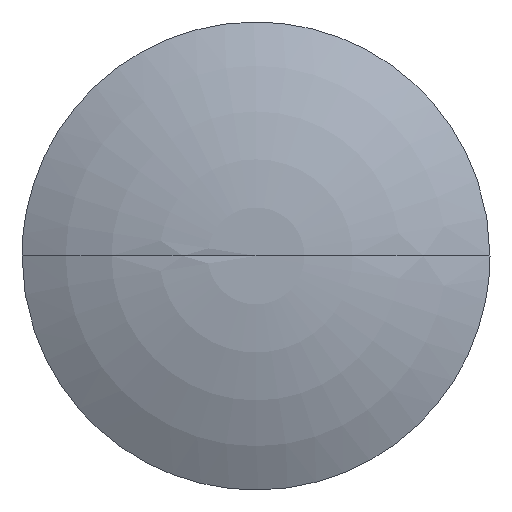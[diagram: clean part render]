
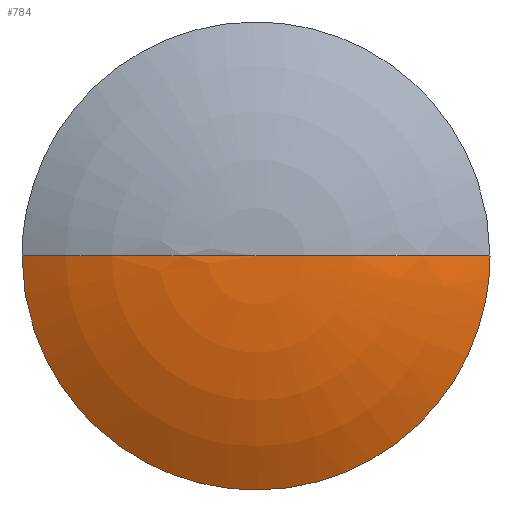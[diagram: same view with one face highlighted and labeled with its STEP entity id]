
A CAD part, top view. The second image highlights one B-rep face of the part: STEP entity #784.
In plain terms, the highlighted toroidal (fillet/blend) face has major radius 0.926 mm and minor radius 16.607 mm.
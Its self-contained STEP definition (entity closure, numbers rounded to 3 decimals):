
#24 = CARTESIAN_POINT ( 'NONE',  ( 2.323, -8.644, 0. ) ) ;
#48 = CARTESIAN_POINT ( 'NONE',  ( -8.875, 0., 0. ) ) ;
#87 = CARTESIAN_POINT ( 'NONE',  ( 3.079, 0., 1.957 ) ) ;
#110 = VERTEX_POINT ( 'NONE', #124 ) ;
#124 = CARTESIAN_POINT ( 'NONE',  ( 8.875, 0., 0. ) ) ;
#166 = CARTESIAN_POINT ( 'NONE',  ( 0., 0., 2. ) ) ;
#189 = CARTESIAN_POINT ( 'NONE',  ( -2.323, -8.644, 0. ) ) ;
#195 = CARTESIAN_POINT ( 'NONE',  ( -4.47, -7.755, 0. ) ) ;
#225 = ORIENTED_EDGE ( 'NONE', *, *, #336, .T. ) ;
#228 = CARTESIAN_POINT ( 'NONE',  ( 6.075, 0., 1.282 ) ) ;
#239 = EDGE_CURVE ( 'NONE', #110, #864, #563, .T. ) ;
#268 = CARTESIAN_POINT ( 'NONE',  ( -7.097, -5.454, 0. ) ) ;
#276 = AXIS2_PLACEMENT_3D ( 'NONE', #754, #983, #415 ) ;
#310 = CARTESIAN_POINT ( 'NONE',  ( -6.075, 0., 1.282 ) ) ;
#336 = EDGE_CURVE ( 'NONE', #688, #110, #952, .T. ) ;
#359 = CARTESIAN_POINT ( 'NONE',  ( 8.875, -1.162, 0. ) ) ;
#364 = CARTESIAN_POINT ( 'NONE',  ( -8.644, -2.323, 0. ) ) ;
#389 = EDGE_LOOP ( 'NONE', ( #225, #602, #653 ) ) ;
#415 = DIRECTION ( 'NONE',  ( 1., 0., 0. ) ) ;
#428 = CARTESIAN_POINT ( 'NONE',  ( 1.533, 0., 2.086 ) ) ;
#458 = CARTESIAN_POINT ( 'NONE',  ( 8.644, -2.323, 0. ) ) ;
#527 = CARTESIAN_POINT ( 'NONE',  ( -5.454, -7.097, 0. ) ) ;
#532 = CARTESIAN_POINT ( 'NONE',  ( -8.875, 0., 0. ) ) ;
#537 = CARTESIAN_POINT ( 'NONE',  ( 7.755, -4.47, 0. ) ) ;
#563 = B_SPLINE_CURVE_WITH_KNOTS ( 'NONE', 3,
 ( #1017, #987, #228, #87, #428, #766 ),
 .UNSPECIFIED., .F., .F.,
 ( 4, 2, 4 ),
 ( 0., 0.5, 1. ),
 .UNSPECIFIED. ) ;
#602 = ORIENTED_EDGE ( 'NONE', *, *, #239, .T. ) ;
#609 = TOROIDAL_SURFACE ( 'NONE', #276, 0.926, 16.607 ) ;
#622 = CARTESIAN_POINT ( 'NONE',  ( 1.162, -8.875, 0. ) ) ;
#633 = CARTESIAN_POINT ( 'NONE',  ( -7.755, -4.47, 0. ) ) ;
#653 = ORIENTED_EDGE ( 'NONE', *, *, #685, .T. ) ;
#685 = EDGE_CURVE ( 'NONE', #864, #688, #840, .T. ) ;
#688 = VERTEX_POINT ( 'NONE', #48 ) ;
#754 = CARTESIAN_POINT ( 'NONE',  ( 0., 0., -14.582 ) ) ;
#766 = CARTESIAN_POINT ( 'NONE',  ( 0., 0., 2. ) ) ;
#784 = ADVANCED_FACE ( 'NONE', ( #909 ), #609, .T. ) ;
#809 = CARTESIAN_POINT ( 'NONE',  ( -3.079, 0., 1.957 ) ) ;
#840 = B_SPLINE_CURVE_WITH_KNOTS ( 'NONE', 3,
 ( #1049, #963, #809, #310, #1069, #961 ),
 .UNSPECIFIED., .F., .F.,
 ( 4, 2, 4 ),
 ( 0., 0.5, 1. ),
 .UNSPECIFIED. ) ;
#864 = VERTEX_POINT ( 'NONE', #166 ) ;
#865 = CARTESIAN_POINT ( 'NONE',  ( 8.875, 0., 0. ) ) ;
#871 = CARTESIAN_POINT ( 'NONE',  ( 4.47, -7.755, 0. ) ) ;
#909 = FACE_OUTER_BOUND ( 'NONE', #389, .T. ) ;
#946 = CARTESIAN_POINT ( 'NONE',  ( 5.454, -7.097, 0. ) ) ;
#952 = B_SPLINE_CURVE_WITH_KNOTS ( 'NONE', 3,
 ( #532, #1032, #364, #633, #268, #527, #195, #189, #1020, #622, #24, #871, #946, #1038, #537, #458, #359, #865 ),
 .UNSPECIFIED., .F., .F.,
 ( 4, 2, 2, 2, 2, 2, 2, 2, 4 ),
 ( 0., 0.125, 0.25, 0.375, 0.5, 0.625, 0.75, 0.875, 1. ),
 .UNSPECIFIED. ) ;
#961 = CARTESIAN_POINT ( 'NONE',  ( -8.875, 0., 0. ) ) ;
#963 = CARTESIAN_POINT ( 'NONE',  ( -1.533, 0., 2.086 ) ) ;
#983 = DIRECTION ( 'NONE',  ( 0., 0., 1. ) ) ;
#987 = CARTESIAN_POINT ( 'NONE',  ( 7.526, 0., 0.735 ) ) ;
#1017 = CARTESIAN_POINT ( 'NONE',  ( 8.875, 0., 0. ) ) ;
#1020 = CARTESIAN_POINT ( 'NONE',  ( -1.162, -8.875, 0. ) ) ;
#1032 = CARTESIAN_POINT ( 'NONE',  ( -8.875, -1.162, 0. ) ) ;
#1038 = CARTESIAN_POINT ( 'NONE',  ( 7.097, -5.454, 0. ) ) ;
#1049 = CARTESIAN_POINT ( 'NONE',  ( 0., 0., 2. ) ) ;
#1069 = CARTESIAN_POINT ( 'NONE',  ( -7.526, 0., 0.735 ) ) ;
